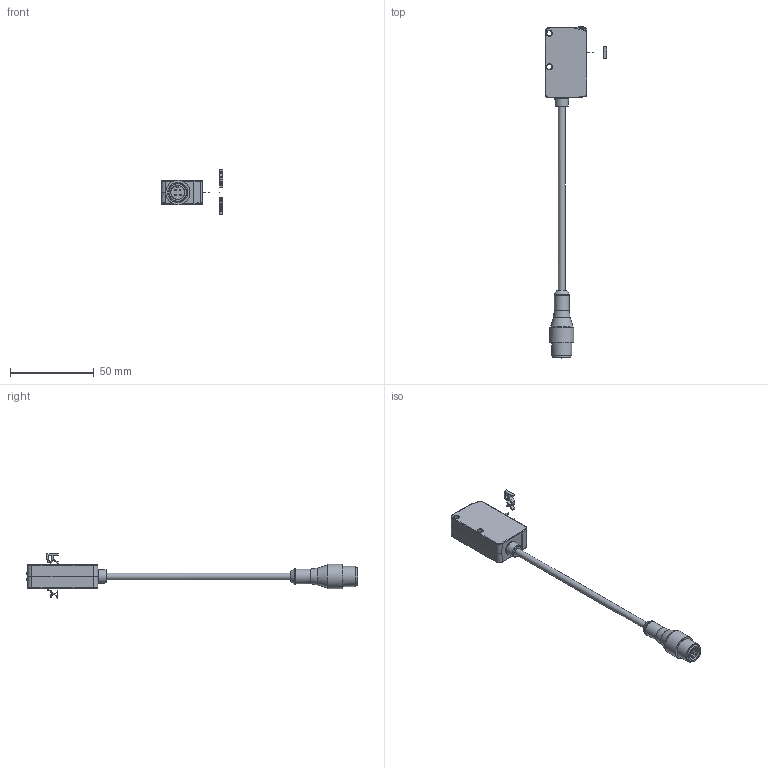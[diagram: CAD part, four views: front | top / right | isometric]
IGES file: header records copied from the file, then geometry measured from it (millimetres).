
Global section: file name: D:\igs\DSD-0192.igs; preprocessor: I-DEAS 3D IGES Translator 11; date: 20080908.123809; units: millimetre
Bounding box: 37 x 198.3 x 26.68 mm (x, y, z)
Surface area: 8572.4 mm2
Topology: 6 solids, 6 shells, 471 faces, 2341 edges, 2155 vertices
Faces by surface type: bspline 471
